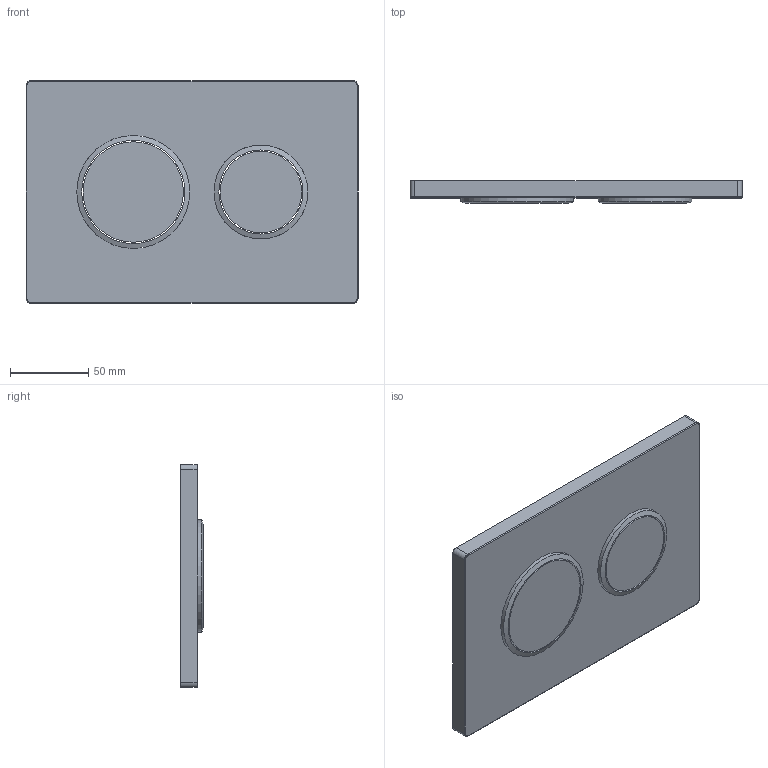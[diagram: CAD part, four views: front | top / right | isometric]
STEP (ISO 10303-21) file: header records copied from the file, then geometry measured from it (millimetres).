
FILE_DESCRIPTION(/* description */ (''),/* implementation_level */ '2;1');
FILE_NAME(/* name */ 'C:\Planerdaten\Export PLA\115.085.JQ.1\stp\115085.stp',/* time_stamp */ '2021-10-08T09:21:53+02:00',/* author */ ('JANAN'),/* organization */ (''),/* preprocessor_version */ 'ST-DEVELOPER v16.13',/* originating_system */ 'Autodesk Inventor 2018',/* authorisation */ '');
FILE_SCHEMA (('AUTOMOTIVE_DESIGN { 1 0 10303 214 3 1 1 }'));
Length unit declared in the file: millimetre
Products named in the file (1): tmp172.tmp
Bounding box: 212 x 14.5 x 142 mm (x, y, z)
Volume: 342949.5 mm3; surface area: 88137.7 mm2
Topology: 5 solids, 5 shells, 38 faces, 72 edges, 44 vertices
Faces by surface type: cylinder 18, plane 14, torus 4, cone 2
Full cylindrical faces by diameter (mm): 51.9 x1, 53.7 x1, 56.6 x1, 59.7 x1, 59.9 x1, 64.1 x1, 65.9 x1, 68.8 x1, 71.9 x1, 72.1 x1
Entity records: 1003 total; most frequent: DIRECTION 178, CARTESIAN_POINT 143, ORIENTED_EDGE 120, AXIS2_PLACEMENT_3D 79, EDGE_CURVE 60, EDGE_LOOP 58, VERTEX_POINT 44, STYLED_ITEM 43
